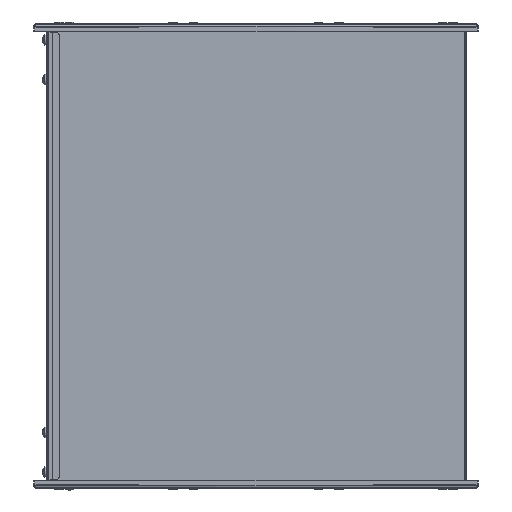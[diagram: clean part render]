
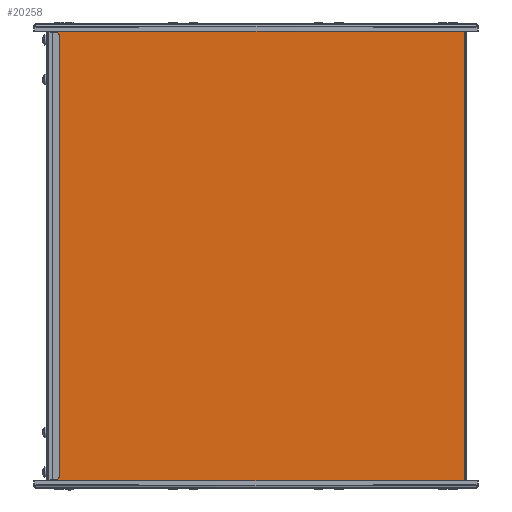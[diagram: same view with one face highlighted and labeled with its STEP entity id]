
A CAD part, left-side view. The second image highlights one B-rep face of the part: STEP entity #20258.
In plain terms, the highlighted planar face has unit normal (-1, 0, 0).
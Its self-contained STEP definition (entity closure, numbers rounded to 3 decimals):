
#926 = AXIS2_PLACEMENT_3D ( 'NONE', #4303, #4309, #4310 ) ;
#1466 = ORIENTED_EDGE ( 'NONE', *, *, #20625, .F. ) ;
#1688 = ORIENTED_EDGE ( 'NONE', *, *, #21365, .T. ) ;
#1753 = ORIENTED_EDGE ( 'NONE', *, *, #20461, .F. ) ;
#1758 = ORIENTED_EDGE ( 'NONE', *, *, #20455, .T. ) ;
#2026 = ORIENTED_EDGE ( 'NONE', *, *, #16660, .T. ) ;
#2156 = ORIENTED_EDGE ( 'NONE', *, *, #16675, .T. ) ;
#2243 = ORIENTED_EDGE ( 'NONE', *, *, #16586, .F. ) ;
#2299 = ORIENTED_EDGE ( 'NONE', *, *, #16665, .F. ) ;
#2368 = ORIENTED_EDGE ( 'NONE', *, *, #16575, .T. ) ;
#2453 = ORIENTED_EDGE ( 'NONE', *, *, #20512, .F. ) ;
#2516 = ORIENTED_EDGE ( 'NONE', *, *, #16537, .F. ) ;
#2544 = ORIENTED_EDGE ( 'NONE', *, *, #20667, .F. ) ;
#3018 = VECTOR ( 'NONE', #10635, 1000. ) ;
#3058 = LINE ( 'NONE', #10636, #3018 ) ;
#3945 = DIRECTION ( 'NONE',  ( 0., 0., -1. ) ) ;
#3950 = CARTESIAN_POINT ( 'NONE',  ( -300.8, 214.6, 173.8 ) ) ;
#4081 = CARTESIAN_POINT ( 'NONE',  ( -300.8, 315.129, -173.8 ) ) ;
#4086 = DIRECTION ( 'NONE',  ( 0., -1., 0. ) ) ;
#4105 = DIRECTION ( 'NONE',  ( 0., 1., 0. ) ) ;
#4107 = CARTESIAN_POINT ( 'NONE',  ( -300.8, 104.2, -173.7 ) ) ;
#4303 = CARTESIAN_POINT ( 'NONE',  ( -300.8, 0., 0. ) ) ;
#4307 = PLANE ( 'NONE',  #926 ) ;
#4309 = DIRECTION ( 'NONE',  ( 1., 0., 0. ) ) ;
#4310 = DIRECTION ( 'NONE',  ( 0., 1., 0. ) ) ;
#4525 = CARTESIAN_POINT ( 'NONE',  ( -300.8, 315.129, -173.8 ) ) ;
#4532 = DIRECTION ( 'NONE',  ( 0., -1., 0. ) ) ;
#4540 = CARTESIAN_POINT ( 'NONE',  ( -300.8, 214.6, 173.7 ) ) ;
#4547 = DIRECTION ( 'NONE',  ( 0., -1., 0. ) ) ;
#4688 = CARTESIAN_POINT ( 'NONE',  ( -300.8, 104.2, -173.8 ) ) ;
#4689 = DIRECTION ( 'NONE',  ( 0., 0., 1. ) ) ;
#5212 = VECTOR ( 'NONE', #4689, 1000. ) ;
#5223 = LINE ( 'NONE', #4688, #5212 ) ;
#5422 = VECTOR ( 'NONE', #4547, 1000. ) ;
#5425 = LINE ( 'NONE', #4540, #5422 ) ;
#5446 = VECTOR ( 'NONE', #4532, 1000. ) ;
#5456 = LINE ( 'NONE', #4525, #5446 ) ;
#5743 = VECTOR ( 'NONE', #26067, 1000. ) ;
#5748 = FACE_OUTER_BOUND ( 'NONE', #13376, .T. ) ;
#5899 = LINE ( 'NONE', #26046, #6299 ) ;
#6299 = VECTOR ( 'NONE', #26042, 1000. ) ;
#6538 = VECTOR ( 'NONE', #26029, 1000. ) ;
#6563 = LINE ( 'NONE', #26072, #5743 ) ;
#6565 = LINE ( 'NONE', #26022, #6538 ) ;
#6696 = CARTESIAN_POINT ( 'NONE',  ( -300.8, 314., 173.8 ) ) ;
#6707 = CARTESIAN_POINT ( 'NONE',  ( -300.8, 214.6, -173.8 ) ) ;
#6773 = CARTESIAN_POINT ( 'NONE',  ( -300.8, 104.2, -173.8 ) ) ;
#6783 = CARTESIAN_POINT ( 'NONE',  ( -300.8, 1.2, -173.8 ) ) ;
#6784 = CARTESIAN_POINT ( 'NONE',  ( -300.8, 1.2, 173.8 ) ) ;
#6785 = CARTESIAN_POINT ( 'NONE',  ( -300.8, 104.2, 173.7 ) ) ;
#6787 = CARTESIAN_POINT ( 'NONE',  ( -300.8, 214.6, 173.7 ) ) ;
#6791 = CARTESIAN_POINT ( 'NONE',  ( -300.8, 104.2, -173.7 ) ) ;
#6792 = CARTESIAN_POINT ( 'NONE',  ( -300.8, 104.2, 173.8 ) ) ;
#6842 = CARTESIAN_POINT ( 'NONE',  ( -300.8, 214.6, 173.8 ) ) ;
#7761 = VECTOR ( 'NONE', #4105, 1000. ) ;
#7765 = LINE ( 'NONE', #4107, #7761 ) ;
#7780 = VECTOR ( 'NONE', #4086, 1000. ) ;
#7785 = LINE ( 'NONE', #4081, #7780 ) ;
#7829 = VECTOR ( 'NONE', #3945, 1000. ) ;
#7832 = LINE ( 'NONE', #3950, #7829 ) ;
#10635 = DIRECTION ( 'NONE',  ( 0., 1., 0. ) ) ;
#10636 = CARTESIAN_POINT ( 'NONE',  ( -300.8, 1.2, 173.8 ) ) ;
#10694 = CARTESIAN_POINT ( 'NONE',  ( -300.8, 314., -173.8 ) ) ;
#11779 = CARTESIAN_POINT ( 'NONE',  ( -300.8, 214.6, -173.7 ) ) ;
#13376 = EDGE_LOOP ( 'NONE', ( #2453, #2368, #2544, #1688, #2299, #1753, #2516, #2156, #2026, #1758, #1466, #2243 ) ) ;
#16537 = EDGE_CURVE ( 'NONE', #18057, #18002, #7832, .T. ) ;
#16575 = EDGE_CURVE ( 'NONE', #17988, #17998, #7785, .T. ) ;
#16586 = EDGE_CURVE ( 'NONE', #18006, #19203, #7765, .T. ) ;
#16660 = EDGE_CURVE ( 'NONE', #17855, #22832, #6565, .T. ) ;
#16665 = EDGE_CURVE ( 'NONE', #18000, #18007, #5899, .T. ) ;
#16675 = EDGE_CURVE ( 'NONE', #18057, #17855, #6563, .T. ) ;
#16851 = LINE ( 'NONE', #19744, #17026 ) ;
#17026 = VECTOR ( 'NONE', #19749, 1000. ) ;
#17210 = LINE ( 'NONE', #19869, #17216 ) ;
#17216 = VECTOR ( 'NONE', #19865, 1000. ) ;
#17855 = VERTEX_POINT ( 'NONE', #6696 ) ;
#17875 = VERTEX_POINT ( 'NONE', #6707 ) ;
#17988 = VERTEX_POINT ( 'NONE', #6773 ) ;
#17998 = VERTEX_POINT ( 'NONE', #6783 ) ;
#17999 = VERTEX_POINT ( 'NONE', #6784 ) ;
#18000 = VERTEX_POINT ( 'NONE', #6785 ) ;
#18002 = VERTEX_POINT ( 'NONE', #6787 ) ;
#18006 = VERTEX_POINT ( 'NONE', #6791 ) ;
#18007 = VERTEX_POINT ( 'NONE', #6792 ) ;
#18057 = VERTEX_POINT ( 'NONE', #6842 ) ;
#19203 = VERTEX_POINT ( 'NONE', #11779 ) ;
#19744 = CARTESIAN_POINT ( 'NONE',  ( -300.8, 214.6, -173.7 ) ) ;
#19749 = DIRECTION ( 'NONE',  ( 0., 0., -1. ) ) ;
#19865 = DIRECTION ( 'NONE',  ( 0., 0., -1. ) ) ;
#19869 = CARTESIAN_POINT ( 'NONE',  ( -300.8, 1.2, 0. ) ) ;
#20258 = ADVANCED_FACE ( 'NONE', ( #5748 ), #4307, .F. ) ;
#20455 = EDGE_CURVE ( 'NONE', #22832, #17875, #5456, .T. ) ;
#20461 = EDGE_CURVE ( 'NONE', #18002, #18000, #5425, .T. ) ;
#20512 = EDGE_CURVE ( 'NONE', #17988, #18006, #5223, .T. ) ;
#20625 = EDGE_CURVE ( 'NONE', #19203, #17875, #16851, .T. ) ;
#20667 = EDGE_CURVE ( 'NONE', #17999, #17998, #17210, .T. ) ;
#21365 = EDGE_CURVE ( 'NONE', #17999, #18007, #3058, .T. ) ;
#22832 = VERTEX_POINT ( 'NONE', #10694 ) ;
#26022 = CARTESIAN_POINT ( 'NONE',  ( -300.8, 314., 174.929 ) ) ;
#26029 = DIRECTION ( 'NONE',  ( 0., 0., -1. ) ) ;
#26042 = DIRECTION ( 'NONE',  ( 0., 0., 1. ) ) ;
#26046 = CARTESIAN_POINT ( 'NONE',  ( -300.8, 104.2, 173.7 ) ) ;
#26067 = DIRECTION ( 'NONE',  ( 0., 1., 0. ) ) ;
#26072 = CARTESIAN_POINT ( 'NONE',  ( -300.8, 1.2, 173.8 ) ) ;
